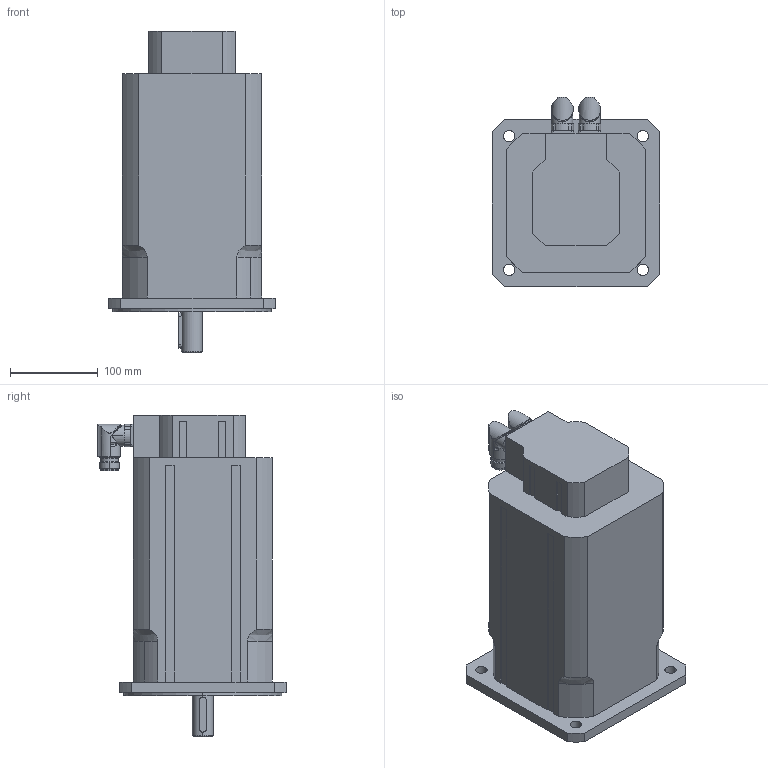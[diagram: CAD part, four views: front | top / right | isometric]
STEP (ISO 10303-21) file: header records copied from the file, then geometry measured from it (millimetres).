
FILE_DESCRIPTION(('STEP AP203'),'2;1');
FILE_NAME('MT6-2200_BX.stp','2006-08-28T20:59:00',(''),(''),'2005.2.102','THINKDESIGN','');
FILE_SCHEMA(('CONFIG_CONTROL_DESIGN'));
Length unit declared in the file: millimetre
Bounding box: 190 x 214.5 x 365 mm (x, y, z)
Volume: 7207093.1 mm3; surface area: 282693.1 mm2
Topology: 3 solids, 3 shells, 258 faces, 685 edges, 443 vertices
Faces by surface type: cylinder 112, plane 108, bspline 38
Full cylindrical faces by diameter (mm): 20 x2
Entity records: 9380 total; most frequent: CARTESIAN_POINT 2860, ORIENTED_EDGE 1366, DIRECTION 1343, EDGE_CURVE 683, AXIS2_PLACEMENT_3D 500, VERTEX_POINT 443, VECTOR 343, LINE 343
